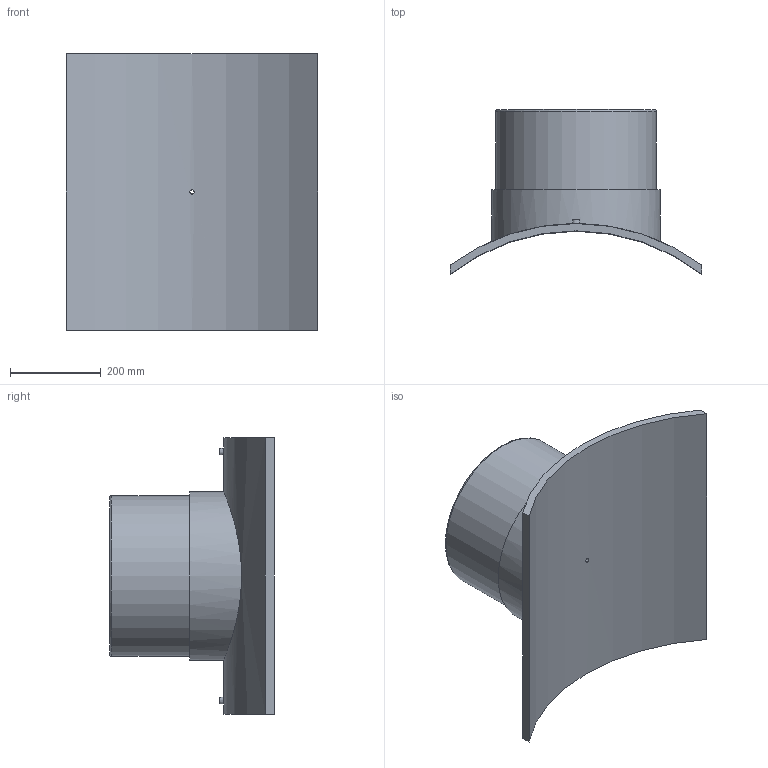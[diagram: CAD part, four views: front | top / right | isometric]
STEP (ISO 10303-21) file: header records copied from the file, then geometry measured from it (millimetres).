
FILE_DESCRIPTION(/* description */ ('PLASSON BRANCH SADDLE 900x355'),/* implementation_level */ '2;1');
FILE_NAME(/* name */ 'C:\Dropbox\99-16-3568-Processing\ElectroFusion Fittings\495803\495803900355T.ipt.stp',/* time_stamp */ '2021-02-25T09:46:14+02:00',/* author */ ('KIM'),/* organization */ (''),/* preprocessor_version */ 'ST-DEVELOPER v17.2',/* originating_system */ 'Autodesk Inventor 2019',/* authorisation */ '');
FILE_SCHEMA (('AUTOMOTIVE_DESIGN { 1 0 10303 214 3 1 1 }'));
Length unit declared in the file: millimetre
Products named in the file (1): 495803900355T
Bounding box: 554 x 363.36 x 610 mm (x, y, z)
Volume: 16252666.7 mm3; surface area: 1318943.4 mm2
Topology: 1 solids, 1 shells, 29 faces, 60 edges, 43 vertices
Faces by surface type: plane 13, cylinder 12, torus 2, cone 2
Full cylindrical faces by diameter (mm): 4 x2, 9.6 x1, 10 x2, 16 x1, 284 x1, 355 x1, 372.75 x1
Entity records: 1102 total; most frequent: CARTESIAN_POINT 416, DIRECTION 139, ORIENTED_EDGE 120, EDGE_CURVE 60, AXIS2_PLACEMENT_3D 60, VERTEX_POINT 43, EDGE_LOOP 41, CIRCLE 30
